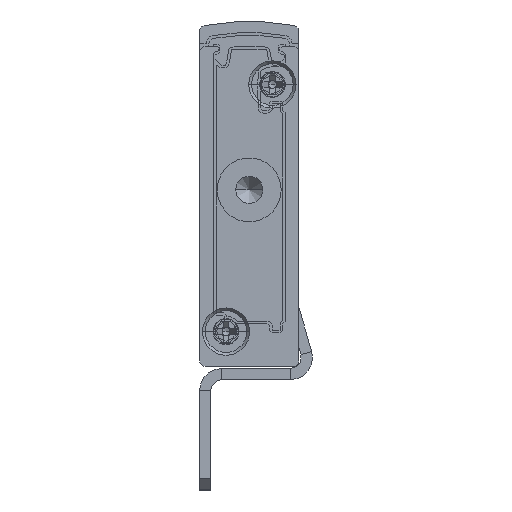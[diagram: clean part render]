
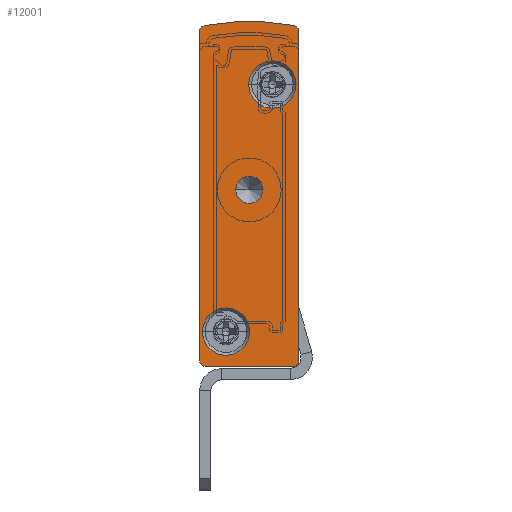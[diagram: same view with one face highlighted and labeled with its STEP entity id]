
A CAD part, front view. The second image highlights one B-rep face of the part: STEP entity #12001.
In plain terms, the highlighted planar face has unit normal (0, -1, 0).
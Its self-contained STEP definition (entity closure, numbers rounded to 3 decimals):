
#172 = AXIS2_PLACEMENT_3D ( 'NONE', #13013, #3895, #24230 ) ;
#441 = EDGE_CURVE ( 'NONE', #24799, #1176, #20671, .T. ) ;
#484 = DIRECTION ( 'NONE',  ( 1., 0., 0. ) ) ;
#496 = VERTEX_POINT ( 'NONE', #26091 ) ;
#671 = ORIENTED_EDGE ( 'NONE', *, *, #32820, .F. ) ;
#809 = EDGE_CURVE ( 'NONE', #28542, #32129, #29767, .T. ) ;
#970 = EDGE_CURVE ( 'NONE', #1176, #24799, #23413, .T. ) ;
#1176 = VERTEX_POINT ( 'NONE', #21576 ) ;
#1387 = EDGE_CURVE ( 'NONE', #6997, #496, #35428, .T. ) ;
#1782 = FACE_BOUND ( 'NONE', #26198, .T. ) ;
#2537 = ORIENTED_EDGE ( 'NONE', *, *, #17058, .F. ) ;
#2858 = DIRECTION ( 'NONE',  ( 0., 1., 0. ) ) ;
#2938 = VERTEX_POINT ( 'NONE', #30420 ) ;
#3195 = CARTESIAN_POINT ( 'NONE',  ( -6.6, -2.5, 3.15 ) ) ;
#3315 = AXIS2_PLACEMENT_3D ( 'NONE', #11061, #14482, #23072 ) ;
#3416 = ORIENTED_EDGE ( 'NONE', *, *, #28041, .F. ) ;
#3779 = ORIENTED_EDGE ( 'NONE', *, *, #28020, .F. ) ;
#3895 = DIRECTION ( 'NONE',  ( 0., -1., 0. ) ) ;
#4167 = DIRECTION ( 'NONE',  ( 0., 1., 0. ) ) ;
#5167 = CARTESIAN_POINT ( 'NONE',  ( -8.5, -2.5, 0. ) ) ;
#5440 = FACE_OUTER_BOUND ( 'NONE', #12051, .T. ) ;
#5618 = CARTESIAN_POINT ( 'NONE',  ( -9., -2.5, 30.402 ) ) ;
#6163 = LINE ( 'NONE', #9692, #29293 ) ;
#6259 = AXIS2_PLACEMENT_3D ( 'NONE', #31731, #37573, #20068 ) ;
#6346 = ORIENTED_EDGE ( 'NONE', *, *, #809, .F. ) ;
#6603 = DIRECTION ( 'NONE',  ( 0., 1., 0. ) ) ;
#6997 = VERTEX_POINT ( 'NONE', #30285 ) ;
#8795 = CARTESIAN_POINT ( 'NONE',  ( -8.5, -2.5, 0. ) ) ;
#9149 = PLANE ( 'NONE',  #17040 ) ;
#9242 = AXIS2_PLACEMENT_3D ( 'NONE', #21622, #4167, #27316 ) ;
#9284 = DIRECTION ( 'NONE',  ( 0., -1., 0. ) ) ;
#9292 = DIRECTION ( 'NONE',  ( -1., 0., 0. ) ) ;
#9484 = DIRECTION ( 'NONE',  ( 1., 0., 0. ) ) ;
#9692 = CARTESIAN_POINT ( 'NONE',  ( 0., -2.5, 30.402 ) ) ;
#9773 = EDGE_LOOP ( 'NONE', ( #671, #26468 ) ) ;
#9931 = AXIS2_PLACEMENT_3D ( 'NONE', #29768, #6603, #21359 ) ;
#10207 = AXIS2_PLACEMENT_3D ( 'NONE', #26664, #15163, #9292 ) ;
#10542 = EDGE_CURVE ( 'NONE', #35779, #30454, #14011, .T. ) ;
#10583 = CARTESIAN_POINT ( 'NONE',  ( -8.592, -2.5, 30.893 ) ) ;
#11061 = CARTESIAN_POINT ( 'NONE',  ( -0.5, -2.5, 0.5 ) ) ;
#11189 = DIRECTION ( 'NONE',  ( 0., 1., 0. ) ) ;
#11216 = ORIENTED_EDGE ( 'NONE', *, *, #14133, .F. ) ;
#11318 = CARTESIAN_POINT ( 'NONE',  ( -4.5, -2.5, 16. ) ) ;
#11578 = CARTESIAN_POINT ( 'NONE',  ( -8.5, -2.5, 30.402 ) ) ;
#11679 = ORIENTED_EDGE ( 'NONE', *, *, #19047, .F. ) ;
#11696 = CIRCLE ( 'NONE', #9242, 0.5 ) ;
#12001 = ADVANCED_FACE ( 'NONE', ( #21373, #34471, #5440, #1782 ), #9149, .F. ) ;
#12051 = EDGE_LOOP ( 'NONE', ( #3416, #11216, #30565, #12760, #26035, #3779, #2537, #6346 ) ) ;
#12078 = ORIENTED_EDGE ( 'NONE', *, *, #35887, .F. ) ;
#12224 = DIRECTION ( 'NONE',  ( 1., 0., 0. ) ) ;
#12308 = CARTESIAN_POINT ( 'NONE',  ( -6.6, -2.5, 3.15 ) ) ;
#12481 = CIRCLE ( 'NONE', #9931, 0.5 ) ;
#12655 = VECTOR ( 'NONE', #30886, 1000. ) ;
#12760 = ORIENTED_EDGE ( 'NONE', *, *, #29723, .F. ) ;
#13013 = CARTESIAN_POINT ( 'NONE',  ( -2.4, -2.5, 25.55 ) ) ;
#14011 = CIRCLE ( 'NONE', #25911, 2.15 ) ;
#14133 = EDGE_CURVE ( 'NONE', #33336, #31523, #23127, .T. ) ;
#14239 = AXIS2_PLACEMENT_3D ( 'NONE', #3195, #35498, #12224 ) ;
#14482 = DIRECTION ( 'NONE',  ( 0., 1., 0. ) ) ;
#15163 = DIRECTION ( 'NONE',  ( 0., 1., 0. ) ) ;
#15330 = DIRECTION ( 'NONE',  ( 0., 0., -1. ) ) ;
#15880 = CIRCLE ( 'NONE', #18450, 2.15 ) ;
#16798 = CARTESIAN_POINT ( 'NONE',  ( -4.5, -2.5, 7.592 ) ) ;
#17040 = AXIS2_PLACEMENT_3D ( 'NONE', #11578, #2858, #23714 ) ;
#17058 = EDGE_CURVE ( 'NONE', #32129, #34143, #31291, .T. ) ;
#18450 = AXIS2_PLACEMENT_3D ( 'NONE', #12308, #26830, #9484 ) ;
#18918 = CIRCLE ( 'NONE', #14239, 2.15 ) ;
#19047 = EDGE_CURVE ( 'NONE', #20856, #2938, #18918, .T. ) ;
#20068 = DIRECTION ( 'NONE',  ( -1., 0., 0. ) ) ;
#20313 = LINE ( 'NONE', #5167, #12655 ) ;
#20671 = CIRCLE ( 'NONE', #29282, 1.25 ) ;
#20856 = VERTEX_POINT ( 'NONE', #31009 ) ;
#21064 = EDGE_CURVE ( 'NONE', #32698, #33336, #12481, .T. ) ;
#21199 = CARTESIAN_POINT ( 'NONE',  ( -3.25, -2.5, 16. ) ) ;
#21359 = DIRECTION ( 'NONE',  ( -1., 0., 0. ) ) ;
#21373 = FACE_BOUND ( 'NONE', #9773, .T. ) ;
#21576 = CARTESIAN_POINT ( 'NONE',  ( -5.75, -2.5, 16. ) ) ;
#21622 = CARTESIAN_POINT ( 'NONE',  ( -8.5, -2.5, 30.402 ) ) ;
#22388 = CARTESIAN_POINT ( 'NONE',  ( -0.408, -2.5, 30.893 ) ) ;
#22428 = CARTESIAN_POINT ( 'NONE',  ( -9., -2.5, 30.402 ) ) ;
#22894 = CARTESIAN_POINT ( 'NONE',  ( -4.55, -2.5, 25.55 ) ) ;
#23072 = DIRECTION ( 'NONE',  ( -1., 0., 0. ) ) ;
#23127 = LINE ( 'NONE', #5618, #26291 ) ;
#23172 = DIRECTION ( 'NONE',  ( 0., 0., 1. ) ) ;
#23413 = CIRCLE ( 'NONE', #6259, 1.25 ) ;
#23714 = DIRECTION ( 'NONE',  ( -1., 0., 0. ) ) ;
#24230 = DIRECTION ( 'NONE',  ( 1., 0., 0. ) ) ;
#24599 = CARTESIAN_POINT ( 'NONE',  ( 0., -2.5, 30.402 ) ) ;
#24799 = VERTEX_POINT ( 'NONE', #21199 ) ;
#25468 = DIRECTION ( 'NONE',  ( -1., 0., 0. ) ) ;
#25911 = AXIS2_PLACEMENT_3D ( 'NONE', #26658, #9284, #484 ) ;
#26035 = ORIENTED_EDGE ( 'NONE', *, *, #1387, .F. ) ;
#26091 = CARTESIAN_POINT ( 'NONE',  ( -0.5, -2.5, 0. ) ) ;
#26198 = EDGE_LOOP ( 'NONE', ( #34913, #26602 ) ) ;
#26291 = VECTOR ( 'NONE', #23172, 1000. ) ;
#26468 = ORIENTED_EDGE ( 'NONE', *, *, #10542, .F. ) ;
#26602 = ORIENTED_EDGE ( 'NONE', *, *, #441, .T. ) ;
#26658 = CARTESIAN_POINT ( 'NONE',  ( -2.4, -2.5, 25.55 ) ) ;
#26664 = CARTESIAN_POINT ( 'NONE',  ( -0.5, -2.5, 30.402 ) ) ;
#26830 = DIRECTION ( 'NONE',  ( 0., -1., 0. ) ) ;
#27316 = DIRECTION ( 'NONE',  ( -1., 0., 0. ) ) ;
#28020 = EDGE_CURVE ( 'NONE', #34143, #6997, #6163, .T. ) ;
#28041 = EDGE_CURVE ( 'NONE', #31523, #28542, #11696, .T. ) ;
#28158 = DIRECTION ( 'NONE',  ( 0., 1., 0. ) ) ;
#28542 = VERTEX_POINT ( 'NONE', #10583 ) ;
#28981 = CIRCLE ( 'NONE', #172, 2.15 ) ;
#29282 = AXIS2_PLACEMENT_3D ( 'NONE', #11318, #11189, #25468 ) ;
#29293 = VECTOR ( 'NONE', #15330, 1000. ) ;
#29723 = EDGE_CURVE ( 'NONE', #496, #32698, #20313, .T. ) ;
#29767 = CIRCLE ( 'NONE', #33457, 23.658 ) ;
#29768 = CARTESIAN_POINT ( 'NONE',  ( -8.5, -2.5, 0.5 ) ) ;
#30285 = CARTESIAN_POINT ( 'NONE',  ( 0., -2.5, 0.5 ) ) ;
#30420 = CARTESIAN_POINT ( 'NONE',  ( -4.45, -2.5, 3.15 ) ) ;
#30454 = VERTEX_POINT ( 'NONE', #34051 ) ;
#30565 = ORIENTED_EDGE ( 'NONE', *, *, #21064, .F. ) ;
#30886 = DIRECTION ( 'NONE',  ( -1., 0., 0. ) ) ;
#31009 = CARTESIAN_POINT ( 'NONE',  ( -8.75, -2.5, 3.15 ) ) ;
#31244 = DIRECTION ( 'NONE',  ( -1., 0., 0. ) ) ;
#31291 = CIRCLE ( 'NONE', #10207, 0.5 ) ;
#31523 = VERTEX_POINT ( 'NONE', #22428 ) ;
#31699 = CARTESIAN_POINT ( 'NONE',  ( -9., -2.5, 0.5 ) ) ;
#31731 = CARTESIAN_POINT ( 'NONE',  ( -4.5, -2.5, 16. ) ) ;
#32129 = VERTEX_POINT ( 'NONE', #22388 ) ;
#32698 = VERTEX_POINT ( 'NONE', #8795 ) ;
#32820 = EDGE_CURVE ( 'NONE', #30454, #35779, #28981, .T. ) ;
#32890 = EDGE_LOOP ( 'NONE', ( #12078, #11679 ) ) ;
#33336 = VERTEX_POINT ( 'NONE', #31699 ) ;
#33457 = AXIS2_PLACEMENT_3D ( 'NONE', #16798, #28158, #31244 ) ;
#34051 = CARTESIAN_POINT ( 'NONE',  ( -0.25, -2.5, 25.55 ) ) ;
#34143 = VERTEX_POINT ( 'NONE', #24599 ) ;
#34471 = FACE_BOUND ( 'NONE', #32890, .T. ) ;
#34913 = ORIENTED_EDGE ( 'NONE', *, *, #970, .T. ) ;
#35428 = CIRCLE ( 'NONE', #3315, 0.5 ) ;
#35498 = DIRECTION ( 'NONE',  ( 0., -1., 0. ) ) ;
#35779 = VERTEX_POINT ( 'NONE', #22894 ) ;
#35887 = EDGE_CURVE ( 'NONE', #2938, #20856, #15880, .T. ) ;
#37573 = DIRECTION ( 'NONE',  ( 0., 1., 0. ) ) ;
